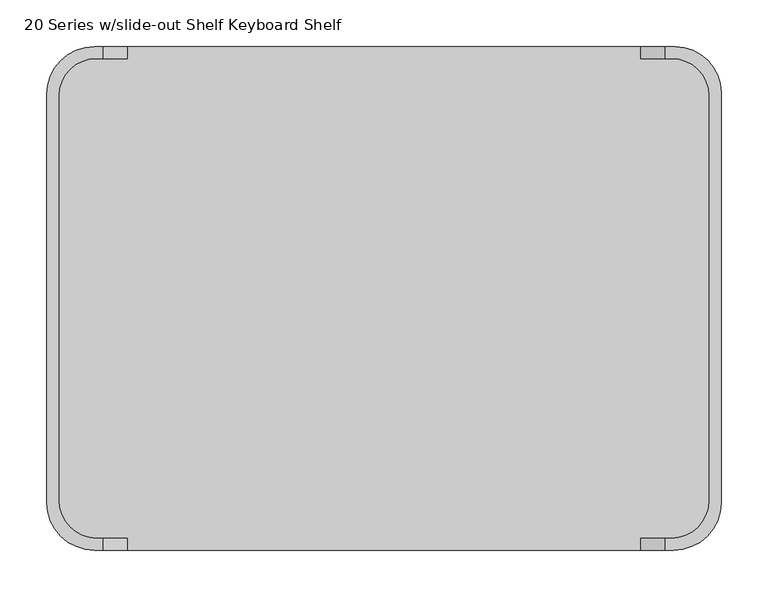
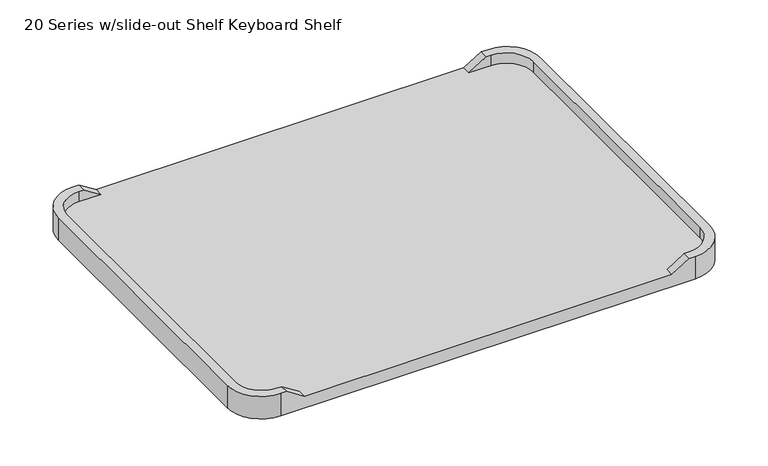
"""IFC4 building model written with IfcOpenShell, lengths in millimetres: furniture geometry, HermanMiller_Carts_CTT_StorageandTechnologyCart : 20 Series w/slide-out Shelf Keyboard Shelf."""

import ifcopenshell
import ifcopenshell.guid

model = None  # the IFC model being written
_history = None  # IfcOwnerHistory: only IFC2X3 demands one
_inside = {}  # id of a spatial element -> (the spatial element, [elements in it])
_under = {}  # id of a project, library or spatial element -> (it, [spatial elements below it])
_declared = {}  # id of a project -> (the project, [libraries it declares])
_typed = {}  # id of a type object -> (the type object, [elements of that type])
_made_of = {}  # id of a material, layer set ... -> (it, [elements and type objects made of it])


def new_model(schema):
    """Start an empty IFC model of exactly this schema.

    Asked for "IFC4X3", IfcOpenShell would pick the latest addendum, in which some entities
    have other attributes; the version numbers below select the first issue.
    IFC2X3 requires an IfcOwnerHistory on every rooted entity: one is made here for all.
    """
    global model, _history
    if schema == "IFC4X3":
        model = ifcopenshell.file(schema_version=(4, 3, 0, 0))
    else:
        model = ifcopenshell.file(schema=schema)
    _inside.clear()
    _under.clear()
    _declared.clear()
    _typed.clear()
    _made_of.clear()
    _history = None
    if model.schema == "IFC2X3":
        org = make("IfcOrganization", Name="unknown")
        user = make(
            "IfcPersonAndOrganization",
            ThePerson=make("IfcPerson", FamilyName="unknown"),
            TheOrganization=org,
        )
        app = make(
            "IfcApplication",
            ApplicationDeveloper=org,
            Version="unknown",
            ApplicationFullName="unknown",
            ApplicationIdentifier="unknown",
        )
        _history = make(
            "IfcOwnerHistory",
            OwningUser=user,
            OwningApplication=app,
            ChangeAction="ADDED",
            CreationDate=0,
        )
    return model


def make(cls, **values):
    """One entity of the class cls with the attributes given. An attribute that is None is left unset."""
    return model.create_entity(
        cls, **{name: value for name, value in values.items() if value is not None}
    )


def rooted(cls, **values):
    """An entity with a GlobalId (a new one), such as an element, a storey or a relation."""
    return make(cls, GlobalId=ifcopenshell.guid.new(), OwnerHistory=_history, **values)


def si_unit(unit_type, name, prefix=None):
    """IfcSIUnit, for example si_unit("LENGTHUNIT", "METRE", prefix="MILLI")."""
    return make("IfcSIUnit", UnitType=unit_type, Prefix=prefix, Name=name)


def assignment(units):
    """IfcUnitAssignment: the units of a project."""
    return None if units is None else make("IfcUnitAssignment", Units=units)


def point(xyz):
    """IfcCartesianPoint."""
    return None if xyz is None else make("IfcCartesianPoint", Coordinates=xyz)


def direction(xyz):
    """IfcDirection."""
    return None if xyz is None else make("IfcDirection", DirectionRatios=xyz)


def frame(location, z_axis=None, x_axis=None):
    """IfcAxis2Placement3D, a coordinate frame: its origin and axes. An axis left out is left unset."""
    return make(
        "IfcAxis2Placement3D",
        Location=point(location),
        Axis=direction(z_axis),
        RefDirection=direction(x_axis),
    )


def origin():
    """The frame at (0, 0, 0) with its axes left unset."""
    return frame((0.0, 0.0, 0.0))


def place(relative_to, where):
    """IfcLocalPlacement: puts the frame where relative to a parent placement (None: the world)."""
    return make(
        "IfcLocalPlacement", PlacementRelTo=relative_to, RelativePlacement=where
    )


def context(
    kind, dimensions, precision=None, world=None, true_north=None, identifier=None
):
    """IfcGeometricRepresentationContext, for example the 3D "Model" context."""
    return make(
        "IfcGeometricRepresentationContext",
        ContextIdentifier=identifier,
        ContextType=kind,
        CoordinateSpaceDimension=dimensions,
        Precision=precision,
        WorldCoordinateSystem=world,
        TrueNorth=true_north,
    )


def project(units=None, contexts=None):
    """IfcProject with its units and contexts."""
    return rooted(
        "IfcProject",
        Name="project",
        RepresentationContexts=contexts,
        UnitsInContext=assignment(units),
    )


def spatial(cls, under=None, at=None, **own):
    """A site, building, storey or space (cls), placed at a placement, below another one or the project."""
    s = rooted(cls, ObjectPlacement=at, **own)
    if under is not None:
        _under.setdefault(under.id(), (under, []))[1].append(s)
    return s


def polyline(points):
    """IfcPolyline through the points."""
    return make("IfcPolyline", Points=[point(p) for p in points])


def circle_curve(where, radius):
    """IfcCircle in the frame where."""
    return make("IfcCircle", Position=where, Radius=radius)


def shape(context_of_items, identifier, shape_type, items):
    """IfcShapeRepresentation: the items that make up one representation, for example the "Body"."""
    return make(
        "IfcShapeRepresentation",
        ContextOfItems=context_of_items,
        RepresentationIdentifier=identifier,
        RepresentationType=shape_type,
        Items=items,
    )


def source(mapping_origin, context_of_items, identifier, shape_type, items):
    """IfcRepresentationMap: a shape defined once, which mapped items show again and again."""
    return make(
        "IfcRepresentationMap",
        MappingOrigin=mapping_origin,
        MappedRepresentation=shape(context_of_items, identifier, shape_type, items),
    )


def transform(
    local_origin,
    x_axis=None,
    y_axis=None,
    z_axis=None,
    scale=None,
    scale2=None,
    scale3=None,
    uniform=True,
):
    """IfcCartesianTransformationOperator3D, or its non-uniform kind. x_axis, y_axis, z_axis: its Axis1, 2, 3."""
    if uniform:
        return make(
            "IfcCartesianTransformationOperator3D",
            Axis1=direction(x_axis),
            Axis2=direction(y_axis),
            LocalOrigin=point(local_origin),
            Scale=scale,
            Axis3=direction(z_axis),
        )
    return make(
        "IfcCartesianTransformationOperator3DnonUniform",
        Axis1=direction(x_axis),
        Axis2=direction(y_axis),
        LocalOrigin=point(local_origin),
        Scale=scale,
        Axis3=direction(z_axis),
        Scale2=scale2,
        Scale3=scale3,
    )


def mapped(mapping_source, mapping_target):
    """IfcMappedItem: shows the shape of a source again, moved by a transform."""
    return make(
        "IfcMappedItem", MappingSource=mapping_source, MappingTarget=mapping_target
    )


def made_of(thing, what):
    """Note that an element or type object is made of a material, layer set ...; save() writes the relation."""
    if what is not None:
        _made_of.setdefault(what.id(), (what, []))[1].append(thing)
    return thing


def element(
    cls,
    number,
    at=None,
    inside=None,
    cuts=None,
    type_object=None,
    material=None,
    context=None,
    identifier="Body",
    shape_type=None,
    held_by="IfcProductDefinitionShape",
    body=None,
    shapes=None,
    **own,
):
    """One element of the class cls, such as IfcWall. Its Tag is "e" and its number.

    at: its placement. inside: the storey or other place that contains it. cuts: it is an
    opening in that element (IfcRelVoidsElement). A single representation is given by context,
    identifier, shape_type and body (its items); several are given by shapes. held_by: the class
    of the entity that holds the representations. save() writes the other relations.
    """
    e = rooted(cls, Tag="e%d" % number, ObjectPlacement=at, **own)
    if body is not None:
        shapes = [shape(context, identifier, shape_type, body)]
    if shapes is not None:
        e.Representation = make(held_by, Representations=shapes)
    if inside is not None:
        _inside.setdefault(inside.id(), (inside, []))[1].append(e)
    if cuts is not None:
        rooted(
            "IfcRelVoidsElement", RelatingBuildingElement=cuts, RelatedOpeningElement=e
        )
    if type_object is not None:
        _typed.setdefault(type_object.id(), (type_object, []))[1].append(e)
    return made_of(e, material)


def aggregate(whole, parts):
    """IfcRelAggregates: a whole, such as a stair, and the parts it consists of."""
    return rooted("IfcRelAggregates", RelatingObject=whole, RelatedObjects=parts)


def save(model, path):
    """Write the relations noted so far, then the file.

    IfcRelAggregates (storeys below a building ...), IfcRelContainedInSpatialStructure (elements
    in a storey), IfcRelDefinesByType, IfcRelAssociatesMaterial and IfcRelDeclares: one each for
    every whole, place, type object, material and project.
    """
    for whole, parts in _under.values():
        aggregate(whole, parts)
    for where, things in _inside.values():
        rooted(
            "IfcRelContainedInSpatialStructure",
            RelatedElements=things,
            RelatingStructure=where,
        )
    for kind, things in _typed.values():
        rooted("IfcRelDefinesByType", RelatedObjects=things, RelatingType=kind)
    for what, things in _made_of.values():
        rooted("IfcRelAssociatesMaterial", RelatedObjects=things, RelatingMaterial=what)
    for by, libraries in _declared.values():
        rooted("IfcRelDeclares", RelatingContext=by, RelatedDefinitions=libraries)
    model.write(path)


def plane_surface(at):
    """IfcPlane: the flat surface through the origin of the frame at, square to its z axis."""
    return make("IfcPlane", Position=at)


def cylinder_surface(at, radius):
    """IfcCylindricalSurface: all points at the distance radius from the z axis of the frame at."""
    return make("IfcCylindricalSurface", Position=at, Radius=radius)


def revolved_surface(curve, axis_point, axis_direction):
    """IfcSurfaceOfRevolution: the curve turned about the line through axis_point along axis_direction."""
    return make(
        "IfcSurfaceOfRevolution",
        SweptCurve=make("IfcArbitraryOpenProfileDef", ProfileType="CURVE", Curve=curve),
        AxisPosition=make("IfcAxis1Placement", Location=point(axis_point), Axis=direction(axis_direction)),
    )


def advanced_brep(points, edges, surfaces, faces):
    """IfcAdvancedBrep: a solid bounded by faces that lie on surfaces and meet in shared edges.

    An edge is (start, end): straight between two places in points (the first is 0);
    or (start, end, curve); or (start, end, curve, False) where it runs against its curve.
    A face is (place in surfaces, loops), or (place, loops, False) where it looks against
    its surface's normal. A loop lists edges by number (the first is 1), with a minus sign
    where the edge is run from its end to its start. The first loop is the outer one.
    """
    corners = [point(p) for p in points]
    vertices = [make("IfcVertexPoint", VertexGeometry=c) for c in corners]
    made = []
    for start, end, *more in edges:
        made.append(
            make(
                "IfcEdgeCurve",
                EdgeStart=vertices[start],
                EdgeEnd=vertices[end],
                EdgeGeometry=more[0] if more else make("IfcPolyline", Points=[corners[start], corners[end]]),
                SameSense=more[1] if len(more) > 1 else True,
            )
        )
    hull = []
    for where, loops, *sense in faces:
        bounds = []
        for j, loop in enumerate(loops):
            ring = [make("IfcOrientedEdge", EdgeElement=made[abs(k) - 1], Orientation=k > 0) for k in loop]
            bounds.append(
                make(
                    "IfcFaceOuterBound" if j == 0 else "IfcFaceBound",
                    Bound=make("IfcEdgeLoop", EdgeList=ring),
                    Orientation=True,
                )
            )
        hull.append(make("IfcAdvancedFace", Bounds=bounds, FaceSurface=surfaces[where], SameSense=sense[0] if sense else True))
    return make("IfcAdvancedBrep", Outer=make("IfcClosedShell", CfsFaces=hull))


def furniture_20_series_w_slide_out_shelf_keyboard_shelf_e83bb7af(model_context):
    return source(origin(), model_context, "Body", "AdvancedBrep", [
        advanced_brep(
        [(24.638, 531.2536921, 1075.1785237), (-26.162, 480.4536921, 1075.1785237), (-26.162, 43.6702202, 1075.1785237), (24.638, -7.1297798, 1075.1785237), (33.6903532, -7.1297798, 1075.1785237), (33.6903532, 5.57022, 1075.1785237), (27.3825827, 5.57022, 1075.1785237), (-13.4619997, 46.4148024, 1075.1785237), (-13.4619997, 478.4784688, 1075.1785237), (26.6132357, 518.5537042, 1075.1785237), (33.6903532, 518.5537042, 1075.1785237), (33.6903532, 531.2536921, 1075.1785237), (643.7809902, -7.1297798, 1075.1785237), (694.5809902, 43.6702202, 1075.1785237), (694.5809902, 482.1354109, 1075.1785237), (645.462709, 531.2536921, 1075.1785237), (634.7286114, 531.2536921, 1075.1785237), (634.7286114, 518.5537042, 1075.1785237), (641.7909285, 518.5537042, 1075.1785237), (681.880966, 478.4636668, 1075.1785237), (681.880966, 45.9586688, 1075.1785237), (641.4925172, 5.57022, 1075.1785237), (634.7286114, 5.57022, 1075.1785237), (634.7286114, -7.1297798, 1075.1785237), (24.638, 531.2536921, 1039.8287539), (645.462709, 531.2536921, 1039.8287539), (694.5809902, 482.1354109, 1039.8287539), (694.5809902, 43.6702202, 1039.8287539), (643.7809902, -7.1297798, 1039.8287539), (24.638, -7.1297798, 1039.8287539), (-26.162, 43.6702202, 1039.8287539), (-26.162, 480.4536921, 1039.8287539), (608.8559902, -7.1297798, 1058.8787539), (59.5630022, -7.1297798, 1058.8787539), (59.5630022, 531.2536921, 1058.8787539), (608.8559902, 531.2536921, 1058.8787539), (681.880966, 45.9586688, 1058.8787539), (641.4925172, 5.57022, 1058.8787539), (59.5630022, 5.57022, 1058.8787539), (27.3825827, 5.57022, 1058.8787539), (608.8559902, 5.57022, 1058.8787539), (-13.4619997, 46.4148024, 1058.8787539), (-13.4619997, 478.4784688, 1058.8787539), (26.6132357, 518.5537042, 1058.8787539), (59.5630022, 518.5537042, 1058.8787539), (608.8559902, 518.5537042, 1058.8787539), (641.7909285, 518.5537042, 1058.8787539), (681.880966, 478.4636668, 1058.8787539)],
        [
            (0, 1, circle_curve(frame((24.638, 480.4536921, 1075.1785237), z_axis=(0.0, 0.0, 1.0), x_axis=(1.0, 0.0, 0.0)), 50.8)),
            (1, 2),
            (2, 3, circle_curve(frame((24.638, 43.6702202, 1075.1785237), z_axis=(0.0, 0.0, 1.0), x_axis=(1.0, 0.0, 0.0)), 50.8)),
            (3, 4),
            (4, 5),
            (5, 6),
            (6, 7, circle_curve(frame((27.3825827, 46.4148024, 1075.1785237), z_axis=(0.0, 0.0, -1.0), x_axis=(1.0, 0.0, 0.0)), 40.8445823)),
            (7, 8),
            (8, 9, circle_curve(frame((26.6132357, 478.4784688, 1075.1785237), z_axis=(0.0, 0.0, -1.0), x_axis=(1.0, 0.0, 0.0)), 40.0752353)),
            (9, 10),
            (10, 11),
            (11, 0),
            (12, 13, circle_curve(frame((643.7809902, 43.6702202, 1075.1785237), z_axis=(0.0, 0.0, 1.0), x_axis=(1.0, 0.0, 0.0)), 50.8)),
            (13, 14),
            (14, 15, circle_curve(frame((645.462709, 482.1354109, 1075.1785237), z_axis=(0.0, 0.0, 1.0), x_axis=(1.0, 0.0, 0.0)), 49.1182812)),
            (15, 16),
            (16, 17),
            (17, 18),
            (18, 19, circle_curve(frame((641.7909285, 478.4636668, 1075.1785237), z_axis=(0.0, 0.0, -1.0), x_axis=(1.0, 0.0, 0.0)), 40.0900374)),
            (19, 20),
            (20, 21, circle_curve(frame((641.4925172, 45.9586688, 1075.1785237), z_axis=(0.0, 0.0, -1.0), x_axis=(1.0, 0.0, 0.0)), 40.3884488)),
            (21, 22),
            (22, 23),
            (23, 12),
            (24, 25),
            (25, 26, circle_curve(frame((645.462709, 482.1354109, 1039.8287539), z_axis=(0.0, 0.0, -1.0), x_axis=(1.0, 0.0, 0.0)), 49.1182812)),
            (26, 27),
            (27, 28, circle_curve(frame((643.7809902, 43.6702202, 1039.8287539), z_axis=(0.0, 0.0, -1.0), x_axis=(1.0, 0.0, 0.0)), 50.8)),
            (28, 29),
            (29, 30, circle_curve(frame((24.638, 43.6702202, 1039.8287539), z_axis=(0.0, 0.0, -1.0), x_axis=(1.0, 0.0, 0.0)), 50.8)),
            (30, 31),
            (31, 24, circle_curve(frame((24.638, 480.4536921, 1039.8287539), z_axis=(0.0, 0.0, -1.0), x_axis=(1.0, 0.0, 0.0)), 50.8)),
            (0, 24),
            (31, 1),
            (30, 2),
            (29, 3),
            (28, 12),
            (23, 32),
            (32, 33),
            (33, 4),
            (27, 13),
            (26, 14),
            (25, 15),
            (11, 34),
            (34, 35),
            (35, 16),
            (20, 36),
            (36, 37, circle_curve(frame((641.4925172, 45.9586688, 1058.8787539), z_axis=(0.0, 0.0, -1.0), x_axis=(1.0, 0.0, 0.0)), 40.3884488)),
            (37, 21),
            (5, 38),
            (38, 39),
            (39, 6),
            (37, 40),
            (40, 22),
            (39, 41, circle_curve(frame((27.3825827, 46.4148024, 1058.8787539), z_axis=(0.0, 0.0, -1.0), x_axis=(1.0, 0.0, 0.0)), 40.8445823)),
            (41, 7),
            (41, 42),
            (42, 8),
            (42, 43, circle_curve(frame((26.6132357, 478.4784688, 1058.8787539), z_axis=(0.0, 0.0, -1.0), x_axis=(1.0, 0.0, 0.0)), 40.0752353)),
            (43, 9),
            (43, 44),
            (44, 10),
            (17, 45),
            (45, 46),
            (46, 18),
            (46, 47, circle_curve(frame((641.7909285, 478.4636668, 1058.8787539), z_axis=(0.0, 0.0, -1.0), x_axis=(1.0, 0.0, 0.0)), 40.0900374)),
            (47, 19),
            (47, 36),
            (40, 32),
            (35, 45),
            (33, 38),
            (44, 34),
        ],
        [
            plane_surface(frame((75.438, 480.4536921, 1075.1785237), z_axis=(0.0, 0.0, 1.0), x_axis=(0.0, 1.0, 0.0))),
            plane_surface(frame((75.438, 480.4536921, 1039.8287539), z_axis=(0.0, 0.0, -1.0), x_axis=(0.0, -1.0, 0.0))),
            cylinder_surface(frame((24.638, 480.4536921, 1039.8287539), z_axis=(0.0, 0.0, 1.0), x_axis=(1.0, 0.0, 0.0)), 50.8),
            plane_surface(frame((-26.162, 480.4536921, 1075.1785237), z_axis=(-1.0, 0.0, 0.0), x_axis=(0.0, 0.0, -1.0))),
            cylinder_surface(frame((24.638, 43.6702202, 1039.8287539), z_axis=(0.0, 0.0, 1.0), x_axis=(1.0, 0.0, 0.0)), 50.8),
            plane_surface(frame((24.638, -7.1297798, 1075.1785237), z_axis=(0.0, -1.0, 0.0), x_axis=(0.0, 0.0, -1.0))),
            cylinder_surface(frame((643.7809902, 43.6702202, 1039.8287539), z_axis=(0.0, 0.0, 1.0), x_axis=(1.0, 0.0, 0.0)), 50.8),
            plane_surface(frame((694.5809902, 43.6702202, 1075.1785237), z_axis=(1.0, 0.0, 0.0), x_axis=(0.0, 0.0, -1.0))),
            cylinder_surface(frame((645.462709, 482.1354109, 1039.8287539), z_axis=(0.0, 0.0, 1.0), x_axis=(1.0, 0.0, 0.0)), 49.1182812),
            plane_surface(frame((645.462709, 531.2536921, 1075.1785237), z_axis=(0.0, 1.0, 0.0), x_axis=(0.0, 0.0, -1.0))),
            revolved_surface(polyline([(681.880966, 45.9586688, 1058.8787539), (681.880966, 45.9586688, 1075.1785237)]), (641.4925172, 45.9586688, 0.0), (0.0, 0.0, -1.0)),
            plane_surface(frame((641.4925172, 5.57022, 1075.1785237), z_axis=(0.0, 1.0, 0.0), x_axis=(0.0, 0.0, -1.0))),
            revolved_surface(polyline([(68.227165, 46.4148024, 1058.8787539), (68.227165, 46.4148024, 1075.1785237)]), (27.3825827, 46.4148024, 0.0), (0.0, 0.0, -1.0)),
            plane_surface(frame((-13.4619997, 46.4148024, 1075.1785237), z_axis=(1.0, 0.0, 0.0), x_axis=(0.0, 0.0, -1.0))),
            revolved_surface(polyline([(66.688471, 478.4784688, 1058.8787539), (66.688471, 478.4784688, 1075.1785237)]), (26.6132357, 478.4784688, 0.0), (0.0, 0.0, -1.0)),
            plane_surface(frame((26.6132357, 518.5537042, 1075.1785237), z_axis=(0.0, -1.0, 0.0), x_axis=(0.0, 0.0, -1.0))),
            revolved_surface(polyline([(681.8809659, 478.4636668, 1058.8787539), (681.8809659, 478.4636668, 1075.1785237)]), (641.7909285, 478.4636668, 0.0), (0.0, 0.0, -1.0)),
            plane_surface(frame((681.880966, 478.4636668, 1075.1785237), z_axis=(-1.0, 0.0, 0.0), x_axis=(0.0, 0.0, -1.0))),
            plane_surface(frame((608.8559902, -74.3098879, 1058.8787539), z_axis=(-0.5330380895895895, 0.0, 0.8460912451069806), x_axis=(0.0, 1.0, 0.0))),
            plane_surface(frame((5.078664, -74.3098879, 1093.2038891), z_axis=(0.5330376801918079, 0.0, 0.8460915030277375), x_axis=(0.0, 1.0, 0.0))),
            plane_surface(frame((59.5630022, -74.3098879, 1058.8787539), z_axis=(0.0, 0.0, 1.0), x_axis=(0.0, 1.0, 0.0))),
        ],
        [
            (0, [[1, 2, 3, 4, 5, 6, 7, 8, 9, 10, 11, 12]]),
            (0, [[13, 14, 15, 16, 17, 18, 19, 20, 21, 22, 23, 24]]),
            (1, [[25, 26, 27, 28, 29, 30, 31, 32]]),
            (2, [[-1, 33, -32, 34]]),
            (3, [[-2, -34, -31, 35]]),
            (4, [[-3, -35, -30, 36]]),
            (5, [[-29, 37, -24, 38, 39, 40, -4, -36]]),
            (6, [[-13, -37, -28, 41]]),
            (7, [[-14, -41, -27, 42]]),
            (8, [[-15, -42, -26, 43]]),
            (9, [[-25, -33, -12, 44, 45, 46, -16, -43]]),
            (10, [[-21, 47, 48, 49]]),
            (11, [[-6, 50, 51, 52]]),
            (11, [[-22, -49, 53, 54]]),
            (12, [[-7, -52, 55, 56]]),
            (13, [[-8, -56, 57, 58]]),
            (14, [[-9, -58, 59, 60]]),
            (15, [[-10, -60, 61, 62]]),
            (15, [[-18, 63, 64, 65]]),
            (16, [[-19, -65, 66, 67]]),
            (17, [[-20, -67, 68, -47]]),
            (18, [[69, -38, -23, -54]]),
            (18, [[70, -63, -17, -46]]),
            (19, [[71, -50, -5, -40]]),
            (19, [[72, -44, -11, -62]]),
            (20, [[-69, -53, -48, -68, -66, -64, -70, -45, -72, -61, -59, -57, -55, -51, -71, -39]]),
        ],
    ),
    ])


if __name__ == "__main__":
    model = new_model("IFC4")
    model_context = context("Model", 3, world=origin())
    ifc_project = project(units=[si_unit("LENGTHUNIT", "METRE", prefix="MILLI")], contexts=[model_context])
    site = spatial("IfcSite", under=ifc_project)
    building = spatial("IfcBuilding", under=site)
    placement = place(None, origin())
    furniture_20_series_w_slide_out_shelf_keyboard_shelf_shape = furniture_20_series_w_slide_out_shelf_keyboard_shelf_e83bb7af(model_context)
    element("IfcFurniture", 1, ObjectType="HermanMiller_Carts_CTT_StorageandTechnologyCart : 20 Series w/slide-out Shelf Keyboard Shelf", at=placement, inside=building, context=model_context, shape_type="MappedRepresentation", body=[
        mapped(furniture_20_series_w_slide_out_shelf_keyboard_shelf_shape, transform((0.0, 0.0, 0.0), x_axis=(1.0, 0.0, 0.0), y_axis=(0.0, 1.0, 0.0), z_axis=(0.0, 0.0, 1.0))),
    ])
    save(model, "model.ifc")
